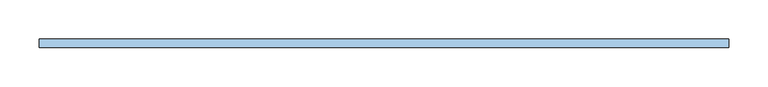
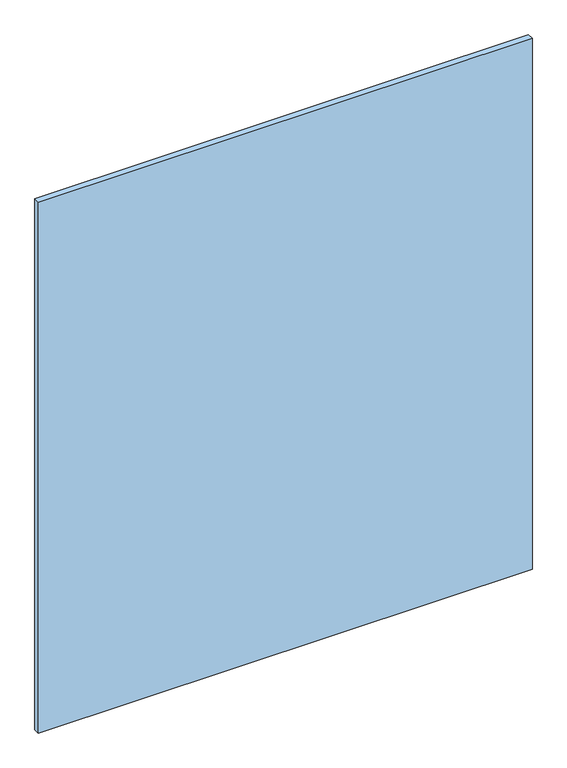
"""IFC4 building model written with IfcOpenShell, lengths in millimetres: window geometry, espejo biselado sin marco : ESP2-espejo biselado 90 x 100."""

from ifc_helpers import new_model, si_unit, origin, origin_with_axes, place, context, project, spatial, polyline, outline, extrude, source, transform, mapped, element, save


def window_f6d1640f(model_context):
    return source(origin(), model_context, "Body", "SweptSolid", [
        extrude(outline(polyline([(-440.0, 19.0), (-440.0, 30.0), (440.0, 30.0), (440.0, 19.0), (-440.0, 19.0)])), origin_with_axes(), (0.0, 0.0, 1.0), 1000.0),
    ])


if __name__ == "__main__":
    model = new_model("IFC4")
    model_context = context("Model", 3, world=origin())
    ifc_project = project(units=[si_unit("LENGTHUNIT", "METRE", prefix="MILLI")], contexts=[model_context])
    site = spatial("IfcSite", under=ifc_project)
    building = spatial("IfcBuilding", under=site)
    placement = place(None, origin())
    window_shape = window_f6d1640f(model_context)
    element("IfcWindow", 1, ObjectType="espejo biselado sin marco : ESP2-espejo biselado 90 x 100", at=placement, inside=building, context=model_context, shape_type="MappedRepresentation", body=[
        mapped(window_shape, transform((0.0, 0.0, 0.0), x_axis=(1.0, 0.0, 0.0), y_axis=(0.0, 1.0, 0.0), z_axis=(0.0, 0.0, 1.0))),
    ])
    save(model, "model.ifc")
